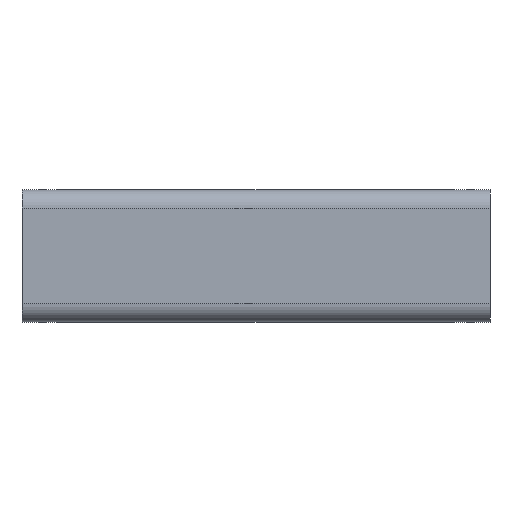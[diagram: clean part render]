
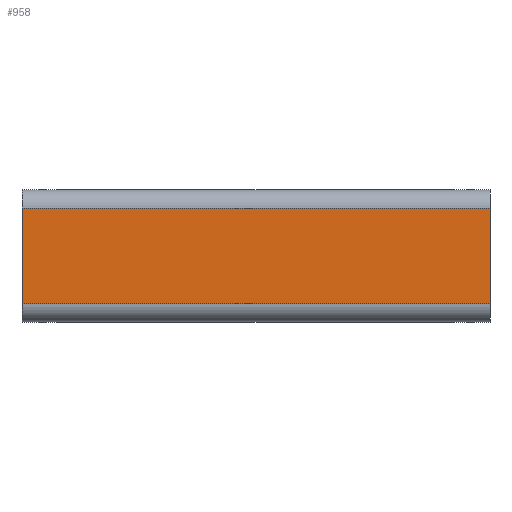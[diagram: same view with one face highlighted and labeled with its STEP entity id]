
A CAD part, top view. The second image highlights one B-rep face of the part: STEP entity #958.
In plain terms, the highlighted planar face has unit normal (0, 0, 1).
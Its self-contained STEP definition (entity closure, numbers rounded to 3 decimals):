
#32 = PLANE('',#33);
#33 = AXIS2_PLACEMENT_3D('',#34,#35,#36);
#34 = CARTESIAN_POINT('',(26.,-32.5,-40.));
#35 = DIRECTION('',(1.,0.,-0.));
#36 = DIRECTION('',(0.,0.,1.));
#175 = VERTEX_POINT('',#176);
#176 = CARTESIAN_POINT('',(26.,23.5,40.));
#191 = CYLINDRICAL_SURFACE('',#192,9.);
#192 = AXIS2_PLACEMENT_3D('',#193,#194,#195);
#193 = CARTESIAN_POINT('',(26.,23.5,31.));
#194 = DIRECTION('',(1.,0.,-0.));
#195 = DIRECTION('',(0.,1.,0.));
#203 = EDGE_CURVE('',#204,#175,#206,.T.);
#204 = VERTEX_POINT('',#205);
#205 = CARTESIAN_POINT('',(26.,-23.5,40.));
#206 = SURFACE_CURVE('',#207,(#211,#218),.PCURVE_S1.);
#207 = LINE('',#208,#209);
#208 = CARTESIAN_POINT('',(26.,-32.5,40.));
#209 = VECTOR('',#210,1.);
#210 = DIRECTION('',(-0.,1.,0.));
#211 = PCURVE('',#32,#212);
#212 = DEFINITIONAL_REPRESENTATION('',(#213),#217);
#213 = LINE('',#214,#215);
#214 = CARTESIAN_POINT('',(80.,0.));
#215 = VECTOR('',#216,1.);
#216 = DIRECTION('',(0.,-1.));
#217 = ( GEOMETRIC_REPRESENTATION_CONTEXT(2) 
PARAMETRIC_REPRESENTATION_CONTEXT() REPRESENTATION_CONTEXT('2D SPACE',''
  ) );
#218 = PCURVE('',#219,#224);
#219 = PLANE('',#220);
#220 = AXIS2_PLACEMENT_3D('',#221,#222,#223);
#221 = CARTESIAN_POINT('',(26.,-32.5,40.));
#222 = DIRECTION('',(0.,0.,1.));
#223 = DIRECTION('',(1.,0.,-0.));
#224 = DEFINITIONAL_REPRESENTATION('',(#225),#229);
#225 = LINE('',#226,#227);
#226 = CARTESIAN_POINT('',(0.,0.));
#227 = VECTOR('',#228,1.);
#228 = DIRECTION('',(0.,1.));
#229 = ( GEOMETRIC_REPRESENTATION_CONTEXT(2) 
PARAMETRIC_REPRESENTATION_CONTEXT() REPRESENTATION_CONTEXT('2D SPACE',''
  ) );
#250 = CYLINDRICAL_SURFACE('',#251,9.);
#251 = AXIS2_PLACEMENT_3D('',#252,#253,#254);
#252 = CARTESIAN_POINT('',(26.,-23.5,31.));
#253 = DIRECTION('',(1.,0.,-0.));
#254 = DIRECTION('',(0.,-1.,0.));
#505 = PLANE('',#506);
#506 = AXIS2_PLACEMENT_3D('',#507,#508,#509);
#507 = CARTESIAN_POINT('',(256.,-32.5,-40.));
#508 = DIRECTION('',(1.,0.,-0.));
#509 = DIRECTION('',(0.,0.,1.));
#860 = EDGE_CURVE('',#204,#861,#863,.T.);
#861 = VERTEX_POINT('',#862);
#862 = CARTESIAN_POINT('',(256.,-23.5,40.));
#863 = SURFACE_CURVE('',#864,(#868,#875),.PCURVE_S1.);
#864 = LINE('',#865,#866);
#865 = CARTESIAN_POINT('',(26.,-23.5,40.));
#866 = VECTOR('',#867,1.);
#867 = DIRECTION('',(1.,0.,-0.));
#868 = PCURVE('',#250,#869);
#869 = DEFINITIONAL_REPRESENTATION('',(#870),#874);
#870 = LINE('',#871,#872);
#871 = CARTESIAN_POINT('',(-1.571,0.));
#872 = VECTOR('',#873,1.);
#873 = DIRECTION('',(-0.,1.));
#874 = ( GEOMETRIC_REPRESENTATION_CONTEXT(2) 
PARAMETRIC_REPRESENTATION_CONTEXT() REPRESENTATION_CONTEXT('2D SPACE',''
  ) );
#875 = PCURVE('',#219,#876);
#876 = DEFINITIONAL_REPRESENTATION('',(#877),#881);
#877 = LINE('',#878,#879);
#878 = CARTESIAN_POINT('',(0.,9.));
#879 = VECTOR('',#880,1.);
#880 = DIRECTION('',(1.,0.));
#881 = ( GEOMETRIC_REPRESENTATION_CONTEXT(2) 
PARAMETRIC_REPRESENTATION_CONTEXT() REPRESENTATION_CONTEXT('2D SPACE',''
  ) );
#958 = ADVANCED_FACE('',(#959),#219,.T.);
#959 = FACE_BOUND('',#960,.T.);
#960 = EDGE_LOOP('',(#961,#962,#963,#986));
#961 = ORIENTED_EDGE('',*,*,#203,.F.);
#962 = ORIENTED_EDGE('',*,*,#860,.T.);
#963 = ORIENTED_EDGE('',*,*,#964,.T.);
#964 = EDGE_CURVE('',#861,#965,#967,.T.);
#965 = VERTEX_POINT('',#966);
#966 = CARTESIAN_POINT('',(256.,23.5,40.));
#967 = SURFACE_CURVE('',#968,(#972,#979),.PCURVE_S1.);
#968 = LINE('',#969,#970);
#969 = CARTESIAN_POINT('',(256.,-32.5,40.));
#970 = VECTOR('',#971,1.);
#971 = DIRECTION('',(-0.,1.,0.));
#972 = PCURVE('',#219,#973);
#973 = DEFINITIONAL_REPRESENTATION('',(#974),#978);
#974 = LINE('',#975,#976);
#975 = CARTESIAN_POINT('',(230.,0.));
#976 = VECTOR('',#977,1.);
#977 = DIRECTION('',(0.,1.));
#978 = ( GEOMETRIC_REPRESENTATION_CONTEXT(2) 
PARAMETRIC_REPRESENTATION_CONTEXT() REPRESENTATION_CONTEXT('2D SPACE',''
  ) );
#979 = PCURVE('',#505,#980);
#980 = DEFINITIONAL_REPRESENTATION('',(#981),#985);
#981 = LINE('',#982,#983);
#982 = CARTESIAN_POINT('',(80.,0.));
#983 = VECTOR('',#984,1.);
#984 = DIRECTION('',(0.,-1.));
#985 = ( GEOMETRIC_REPRESENTATION_CONTEXT(2) 
PARAMETRIC_REPRESENTATION_CONTEXT() REPRESENTATION_CONTEXT('2D SPACE',''
  ) );
#986 = ORIENTED_EDGE('',*,*,#987,.F.);
#987 = EDGE_CURVE('',#175,#965,#988,.T.);
#988 = SURFACE_CURVE('',#989,(#993,#1000),.PCURVE_S1.);
#989 = LINE('',#990,#991);
#990 = CARTESIAN_POINT('',(26.,23.5,40.));
#991 = VECTOR('',#992,1.);
#992 = DIRECTION('',(1.,0.,-0.));
#993 = PCURVE('',#219,#994);
#994 = DEFINITIONAL_REPRESENTATION('',(#995),#999);
#995 = LINE('',#996,#997);
#996 = CARTESIAN_POINT('',(0.,56.));
#997 = VECTOR('',#998,1.);
#998 = DIRECTION('',(1.,0.));
#999 = ( GEOMETRIC_REPRESENTATION_CONTEXT(2) 
PARAMETRIC_REPRESENTATION_CONTEXT() REPRESENTATION_CONTEXT('2D SPACE',''
  ) );
#1000 = PCURVE('',#191,#1001);
#1001 = DEFINITIONAL_REPRESENTATION('',(#1002),#1006);
#1002 = LINE('',#1003,#1004);
#1003 = CARTESIAN_POINT('',(1.571,0.));
#1004 = VECTOR('',#1005,1.);
#1005 = DIRECTION('',(0.,1.));
#1006 = ( GEOMETRIC_REPRESENTATION_CONTEXT(2) 
PARAMETRIC_REPRESENTATION_CONTEXT() REPRESENTATION_CONTEXT('2D SPACE',''
  ) );
